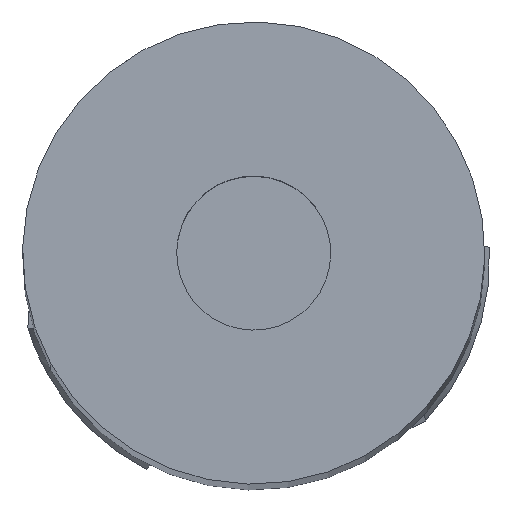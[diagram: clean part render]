
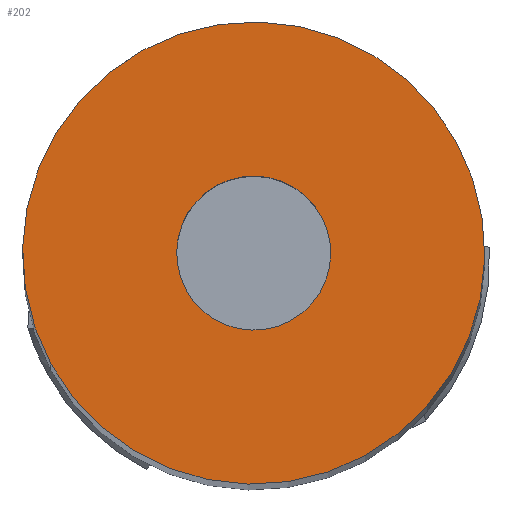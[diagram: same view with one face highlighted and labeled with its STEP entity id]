
A CAD part, top view. The second image highlights one B-rep face of the part: STEP entity #202.
In plain terms, the highlighted planar face has unit normal (0, 0, 1).
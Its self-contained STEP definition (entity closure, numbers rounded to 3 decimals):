
#103=AXIS2_PLACEMENT_3D('Circle Axis2P3D',#101,#102,$) ;
#122=AXIS2_PLACEMENT_3D('Circle Axis2P3D',#120,#121,$) ;
#162=AXIS2_PLACEMENT_3D('Circle Axis2P3D',#160,#161,$) ;
#179=AXIS2_PLACEMENT_3D('Circle Axis2P3D',#177,#178,$) ;
#192=AXIS2_PLACEMENT_3D('Plane Axis2P3D',#189,#190,#191) ;
#98=CARTESIAN_POINT('Vertex',(10.531,5.753,45.)) ;
#101=CARTESIAN_POINT('Axis2P3D Location',(0.,0.,45.)) ;
#105=CARTESIAN_POINT('Vertex',(-10.531,-5.753,45.)) ;
#120=CARTESIAN_POINT('Axis2P3D Location',(0.,0.,45.)) ;
#141=CARTESIAN_POINT('Vertex',(3.51,1.918,45.)) ;
#157=CARTESIAN_POINT('Vertex',(-3.51,-1.918,45.)) ;
#160=CARTESIAN_POINT('Axis2P3D Location',(0.,0.,45.)) ;
#177=CARTESIAN_POINT('Axis2P3D Location',(0.,0.,45.)) ;
#189=CARTESIAN_POINT('Axis2P3D Location',(-12.,0.,45.)) ;
#102=DIRECTION('Axis2P3D Direction',(0.,0.,1.)) ;
#121=DIRECTION('Axis2P3D Direction',(0.,0.,1.)) ;
#161=DIRECTION('Axis2P3D Direction',(0.,0.,1.)) ;
#178=DIRECTION('Axis2P3D Direction',(0.,0.,1.)) ;
#190=DIRECTION('Axis2P3D Direction',(0.,0.,1.)) ;
#191=DIRECTION('Axis2P3D XDirection',(1.,0.,0.)) ;
#195=ORIENTED_EDGE('',*,*,#124,.T.) ;
#196=ORIENTED_EDGE('',*,*,#107,.T.) ;
#199=ORIENTED_EDGE('',*,*,#164,.F.) ;
#200=ORIENTED_EDGE('',*,*,#181,.F.) ;
#201=FACE_BOUND('',#198,.T.) ;
#202=ADVANCED_FACE('NOCUT',(#197,#201),#193,.T.) ;
#104=CIRCLE('generated circle',#103,12.) ;
#123=CIRCLE('generated circle',#122,12.) ;
#163=CIRCLE('generated circle',#162,4.) ;
#180=CIRCLE('generated circle',#179,4.) ;
#107=EDGE_CURVE('',#106,#99,#104,.T.) ;
#124=EDGE_CURVE('',#99,#106,#123,.T.) ;
#164=EDGE_CURVE('',#158,#142,#163,.T.) ;
#181=EDGE_CURVE('',#142,#158,#180,.T.) ;
#194=EDGE_LOOP('',(#195,#196)) ;
#198=EDGE_LOOP('',(#199,#200)) ;
#197=FACE_OUTER_BOUND('',#194,.T.) ;
#193=PLANE('',#192) ;
#99=VERTEX_POINT('',#98) ;
#106=VERTEX_POINT('',#105) ;
#142=VERTEX_POINT('',#141) ;
#158=VERTEX_POINT('',#157) ;
